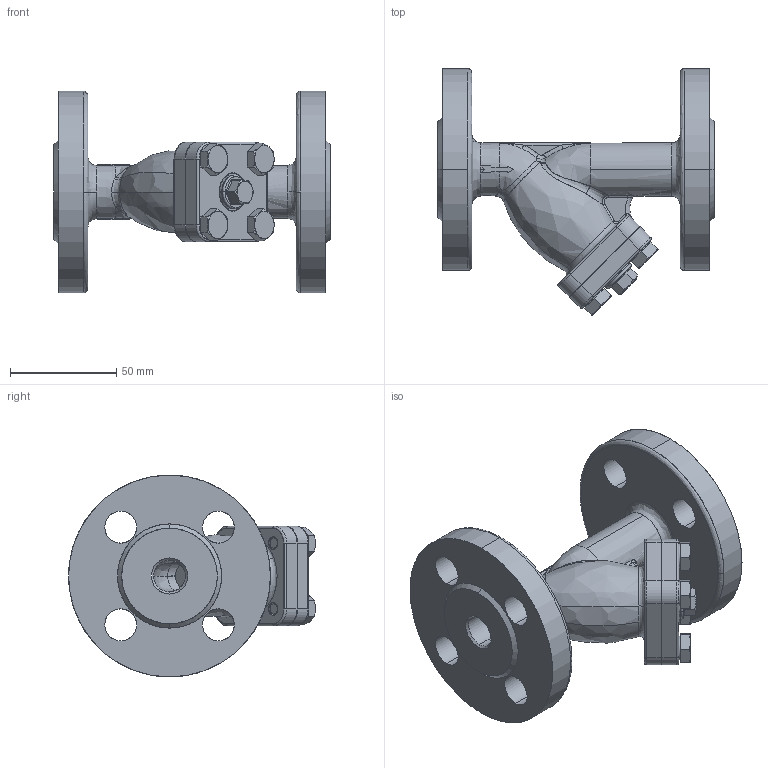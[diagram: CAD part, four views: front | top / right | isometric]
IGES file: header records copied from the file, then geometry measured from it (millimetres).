
Start section: SolidWorks IGES file using analytic representation for surfaces
Global section: file name: C:\Users\Administrator\Desktop\temp\F3240-DN15.IGS; native system: SolidWorks 2015; preprocessor: SolidWorks 2015; author: Administrator; date: 170423.143539; units: millimetre
Bounding box: 130 x 116.15 x 95 mm (x, y, z)
Surface area: 78871 mm2 (no closed solid volume)
Topology: 0 solids, 0 shells, 447 faces, 6437 edges, 6410 vertices
Faces by surface type: bspline 246, revolution 201
